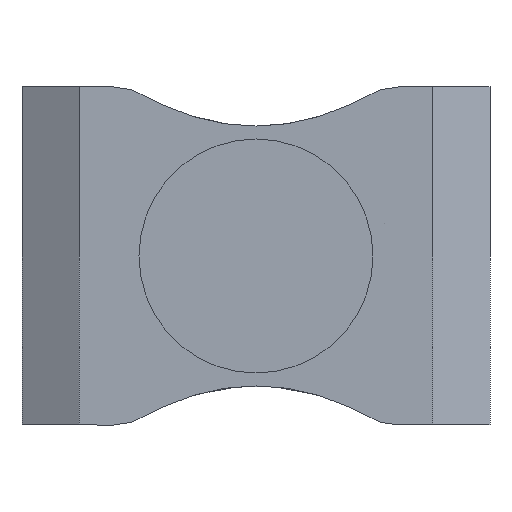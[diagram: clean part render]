
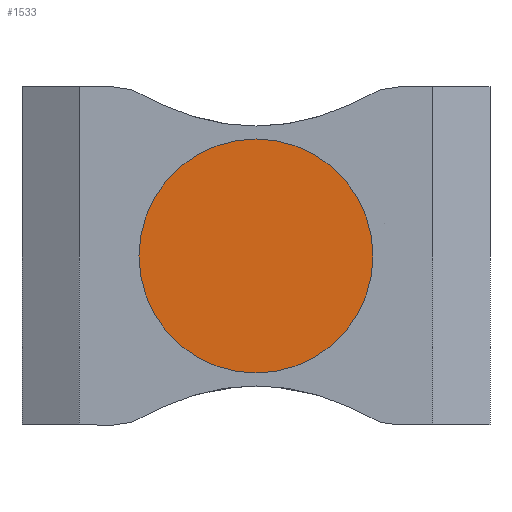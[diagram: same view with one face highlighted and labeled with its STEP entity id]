
A CAD part, front view. The second image highlights one B-rep face of the part: STEP entity #1533.
In plain terms, the highlighted planar face has unit normal (0, -1, 0).
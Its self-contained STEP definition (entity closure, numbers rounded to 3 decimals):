
#26 = EDGE_CURVE ( 'NONE', #141, #890, #955, .T. ) ;
#141 = VERTEX_POINT ( 'NONE', #777 ) ;
#162 = PLANE ( 'NONE',  #1120 ) ;
#213 = CIRCLE ( 'NONE', #652, 9. ) ;
#327 = CARTESIAN_POINT ( 'NONE',  ( 0., -62.7, 0. ) ) ;
#351 = CARTESIAN_POINT ( 'NONE',  ( 0., -62.7, 0. ) ) ;
#652 = AXIS2_PLACEMENT_3D ( 'NONE', #351, #1144, #1445 ) ;
#665 = ORIENTED_EDGE ( 'NONE', *, *, #1905, .T. ) ;
#677 = DIRECTION ( 'NONE',  ( 0., -1., 0. ) ) ;
#777 = CARTESIAN_POINT ( 'NONE',  ( 0., -62.7, -9. ) ) ;
#890 = VERTEX_POINT ( 'NONE', #1355 ) ;
#955 = CIRCLE ( 'NONE', #1594, 9. ) ;
#971 = DIRECTION ( 'NONE',  ( 0., 0., -1. ) ) ;
#1057 = CARTESIAN_POINT ( 'NONE',  ( 0., -62.7, 0. ) ) ;
#1120 = AXIS2_PLACEMENT_3D ( 'NONE', #327, #677, #971 ) ;
#1144 = DIRECTION ( 'NONE',  ( 0., -1., 0. ) ) ;
#1346 = DIRECTION ( 'NONE',  ( 0., -1., 0. ) ) ;
#1354 = ORIENTED_EDGE ( 'NONE', *, *, #26, .T. ) ;
#1355 = CARTESIAN_POINT ( 'NONE',  ( 0., -62.7, 9. ) ) ;
#1445 = DIRECTION ( 'NONE',  ( 0., 0., -1. ) ) ;
#1495 = DIRECTION ( 'NONE',  ( 0., 0., -1. ) ) ;
#1533 = ADVANCED_FACE ( 'NONE', ( #1923 ), #162, .T. ) ;
#1594 = AXIS2_PLACEMENT_3D ( 'NONE', #1057, #1346, #1495 ) ;
#1811 = EDGE_LOOP ( 'NONE', ( #665, #1354 ) ) ;
#1905 = EDGE_CURVE ( 'NONE', #890, #141, #213, .T. ) ;
#1923 = FACE_OUTER_BOUND ( 'NONE', #1811, .T. ) ;
